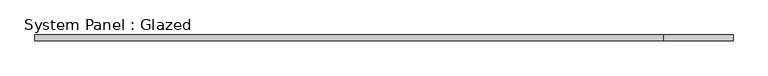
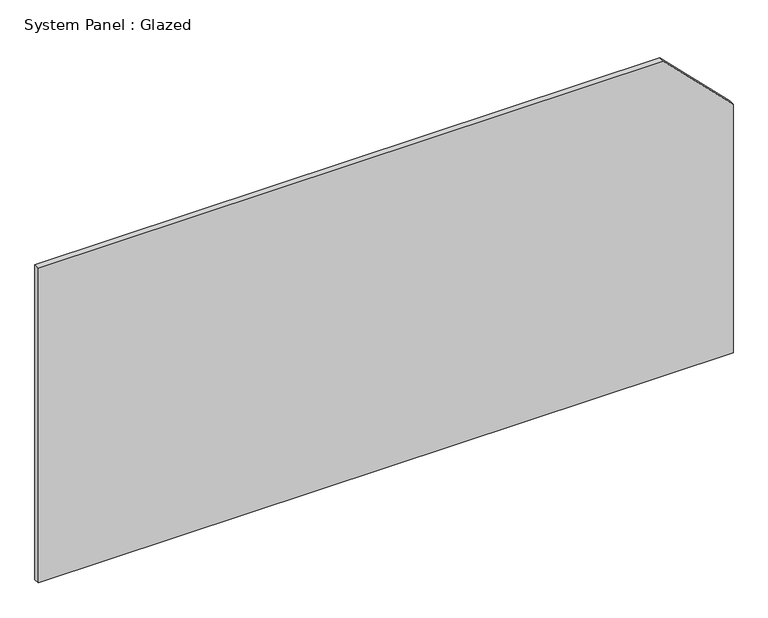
"""IFC4 building model written with IfcOpenShell, lengths in millimetres: plate geometry, System Panel : Glazed."""

from ifc_helpers import new_model, si_unit, frame, origin, place, context, project, spatial, polyline, outline, extrude, source, transform, mapped, element, save


def system_panel_glazed_b7728acb(model_context):
    return source(origin(), model_context, "Body", "SweptSolid", [
        extrude(outline(polyline([(0.0, -1492.2499999), (0.0, 1492.2499999), (1129.397439, 1492.2499999), (1428.75, 1192.8974389), (1428.75, -1492.2499999), (0.0, -1492.2499999)])), frame((0.0, 19.05, 0.0), z_axis=(0.0, 1.0, 0.0), x_axis=(0.0, 0.0, 1.0)), (0.0, 0.0, 1.0), 25.4),
    ])


if __name__ == "__main__":
    model = new_model("IFC4")
    model_context = context("Model", 3, world=origin())
    ifc_project = project(units=[si_unit("LENGTHUNIT", "METRE", prefix="MILLI")], contexts=[model_context])
    site = spatial("IfcSite", under=ifc_project)
    building = spatial("IfcBuilding", under=site)
    placement = place(None, origin())
    system_panel_glazed_shape = system_panel_glazed_b7728acb(model_context)
    element("IfcPlate", 1, ObjectType="System Panel : Glazed", at=placement, inside=building, context=model_context, shape_type="MappedRepresentation", body=[
        mapped(system_panel_glazed_shape, transform((0.0, 0.0, 0.0), x_axis=(1.0, 0.0, 0.0), y_axis=(0.0, 1.0, 0.0), z_axis=(0.0, 0.0, 1.0))),
    ])
    save(model, "model.ifc")
